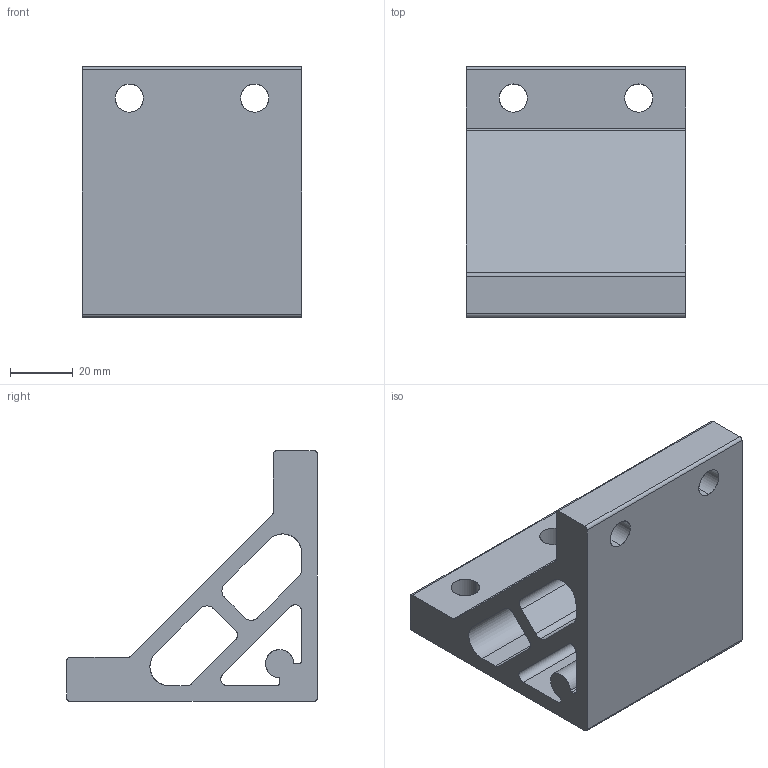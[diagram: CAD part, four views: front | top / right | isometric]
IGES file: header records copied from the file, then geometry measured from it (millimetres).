
Start section: SolidWorks IGES file using analytic representation for surfaces
Global section: file name: C:\Documents and Settings\Administrator\デスクトップ\指定保存後4回目\SolidWorks\SF\SF40・45\Bracket\ハードブラケットG80\SFJ-N07.IGS,41HSolidWorks 2006 by; native system: SolidWorks Corporation; preprocessor: SolidWorks 2006 by SolidWorks Corporation; author: Administrator; date: 061215.172451; units: millimetre
Bounding box: 70 x 80 x 80 mm (x, y, z)
Surface area: 43444.5 mm2 (no closed solid volume)
Topology: 0 solids, 0 shells, 55 faces, 878 edges, 878 vertices
Faces by surface type: revolution 33, bspline 22
